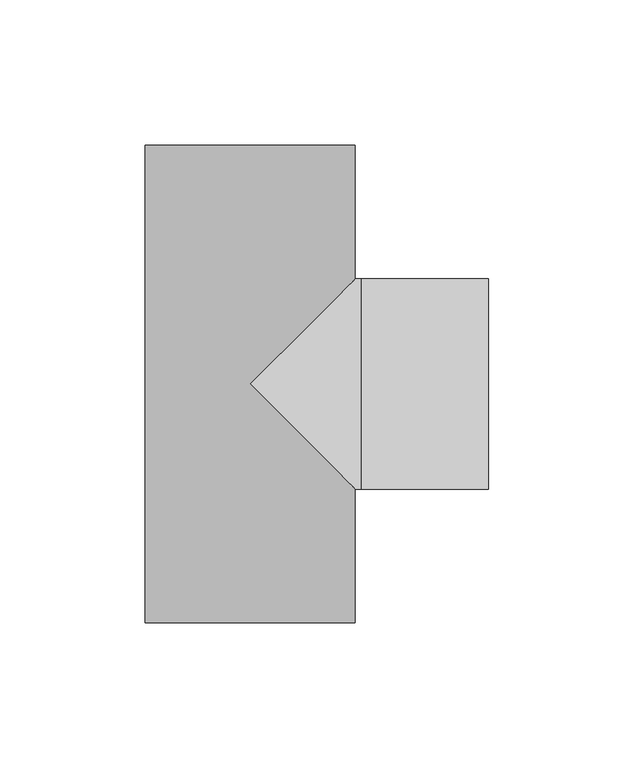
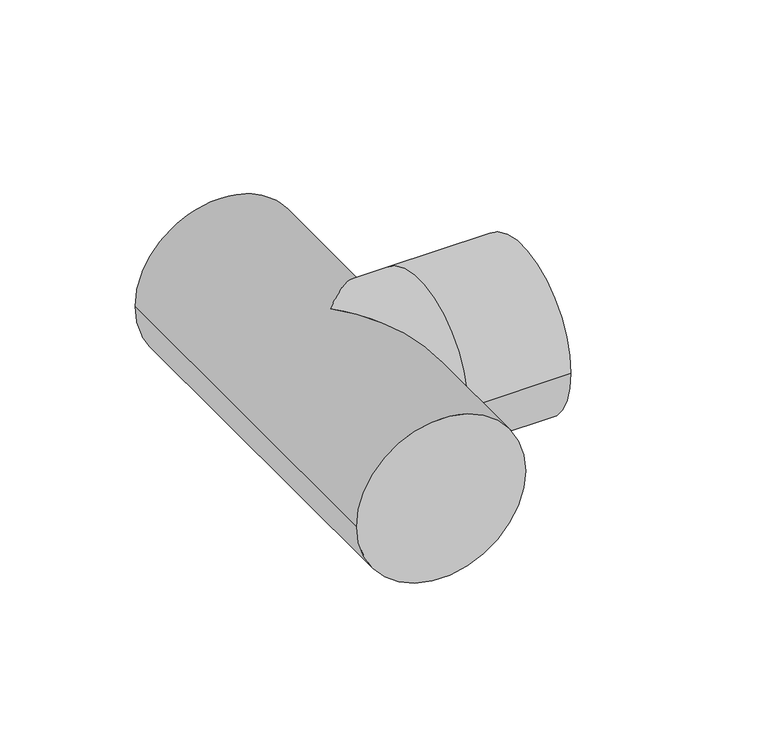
"""IFC4 building model written with IfcOpenShell, lengths in millimetres: pipe fitting geometry, 01051003 : Tés à 90º."""

from ifc_helpers import new_model, si_unit, frame, origin, place, context, project, spatial, circle_curve, ellipse_curve, source, transform, mapped, element, save
from ifc_brep_helpers import plane_surface, cylinder_surface, advanced_brep


def pipe_fitting_d044a6f7(model_context):
    return source(origin(), model_context, "Body", "AdvancedBrep", [
        advanced_brep(
        [(-36.1, 82.0, 0.0), (36.1, 82.0, 0.0), (-36.1, -82.0, 0.0), (36.1, -82.0, 0.0), (36.1, -36.1, 0.0), (0.0, 0.0, 36.1), (36.1, 36.1, 0.0), (0.0, 0.0, -36.1), (82.0, 36.1, 0.0), (82.0, -36.1, 0.0), (38.0, -36.1, 0.0), (38.0, 36.1, 0.0)],
        [
            (0, 1, circle_curve(frame((0.0, 82.0, 0.0), z_axis=(0.0, 1.0, 0.0), x_axis=(1.0, 0.0, 0.0)), 36.1)),
            (1, 0, circle_curve(frame((0.0, 82.0, 0.0), z_axis=(0.0, 1.0, 0.0), x_axis=(1.0, 0.0, 0.0)), 36.1)),
            (2, 3, circle_curve(frame((0.0, -82.0, 0.0), z_axis=(0.0, -1.0, 0.0), x_axis=(1.0, 0.0, 0.0)), 36.1)),
            (3, 2, circle_curve(frame((0.0, -82.0, 0.0), z_axis=(0.0, -1.0, 0.0), x_axis=(1.0, 0.0, 0.0)), 36.1)),
            (0, 2),
            (3, 4),
            (4, 5, ellipse_curve(frame((0.0, 0.0, 0.0), z_axis=(-0.7071067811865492, -0.7071067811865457, 0.0), x_axis=(-0.7071067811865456, 0.7071067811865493, 0.0)), 51.0531096, 36.1)),
            (5, 6, ellipse_curve(frame((0.0, 0.0, 0.0), z_axis=(-0.7071067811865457, 0.7071067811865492, 0.0), x_axis=(0.7071067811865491, 0.7071067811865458, 0.0)), 51.0531096, 36.1)),
            (6, 1),
            (6, 7, ellipse_curve(frame((0.0, 0.0, 0.0), z_axis=(-0.7071067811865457, 0.7071067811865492, 0.0), x_axis=(0.7071067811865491, 0.7071067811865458, 0.0)), 51.0531096, 36.1)),
            (7, 4, ellipse_curve(frame((0.0, 0.0, 0.0), z_axis=(-0.7071067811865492, -0.7071067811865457, 0.0), x_axis=(-0.7071067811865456, 0.7071067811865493, 0.0)), 51.0531096, 36.1)),
            (8, 9, circle_curve(frame((82.0, 0.0, 0.0), z_axis=(1.0, 0.0, 0.0), x_axis=(0.0, -1.0, 0.0)), 36.1)),
            (9, 8, circle_curve(frame((82.0, 0.0, 0.0), z_axis=(1.0, 0.0, 0.0), x_axis=(0.0, -1.0, 0.0)), 36.1)),
            (10, 11, circle_curve(frame((38.0, 0.0, 0.0), z_axis=(-1.0, 0.0, 0.0), x_axis=(0.0, -1.0, 0.0)), 36.1)),
            (11, 6),
            (4, 10),
            (11, 10, circle_curve(frame((38.0, 0.0, 0.0), z_axis=(-1.0, 0.0, 0.0), x_axis=(0.0, -1.0, 0.0)), 36.1)),
            (8, 11),
            (10, 9),
        ],
        [
            plane_surface(frame((0.0, 82.0, 0.0), z_axis=(0.0, 1.0, 0.0), x_axis=(0.0, 0.0, 1.0))),
            plane_surface(frame((0.0, -82.0, 0.0), z_axis=(0.0, -1.0, 0.0), x_axis=(0.0, 0.0, 1.0))),
            cylinder_surface(frame((0.0, 82.0, 0.0), z_axis=(0.0, 1.0, 0.0), x_axis=(1.0, 0.0, 0.0)), 36.1),
            plane_surface(frame((82.0, 0.0, 0.0), z_axis=(1.0, 0.0, 0.0), x_axis=(0.0, 0.0, 1.0))),
            cylinder_surface(frame((38.0, 0.0, 0.0), z_axis=(1.0, 0.0, 0.0), x_axis=(0.0, -1.0, 0.0)), 36.1),
            cylinder_surface(frame((82.0, 0.0, 0.0), z_axis=(1.0, 0.0, 0.0), x_axis=(0.0, -1.0, 0.0)), 36.1),
        ],
        [
            (0, [[1, 2]]),
            (1, [[3, 4]]),
            (2, [[-1, 5, -4, 6, 7, 8, 9]]),
            (2, [[-2, -9, 10, 11, -6, -3, -5]]),
            (3, [[12, 13]]),
            (4, [[14, 15, -8, -7, 16]]),
            (4, [[17, -16, -11, -10, -15]]),
            (5, [[-12, 18, -14, 19]]),
            (5, [[-13, -19, -17, -18]]),
        ],
    ),
    ])


if __name__ == "__main__":
    model = new_model("IFC4")
    model_context = context("Model", 3, world=origin())
    ifc_project = project(units=[si_unit("LENGTHUNIT", "METRE", prefix="MILLI")], contexts=[model_context])
    site = spatial("IfcSite", under=ifc_project)
    building = spatial("IfcBuilding", under=site)
    placement = place(None, origin())
    pipe_fitting_shape = pipe_fitting_d044a6f7(model_context)
    element("IfcPipeFitting", 1, ObjectType="01051003 : Tés à 90º", at=placement, inside=building, context=model_context, shape_type="MappedRepresentation", body=[
        mapped(pipe_fitting_shape, transform((0.0, 0.0, 0.0), x_axis=(1.0, 0.0, 0.0), y_axis=(0.0, 1.0, 0.0), z_axis=(0.0, 0.0, 1.0))),
    ])
    save(model, "model.ifc")
